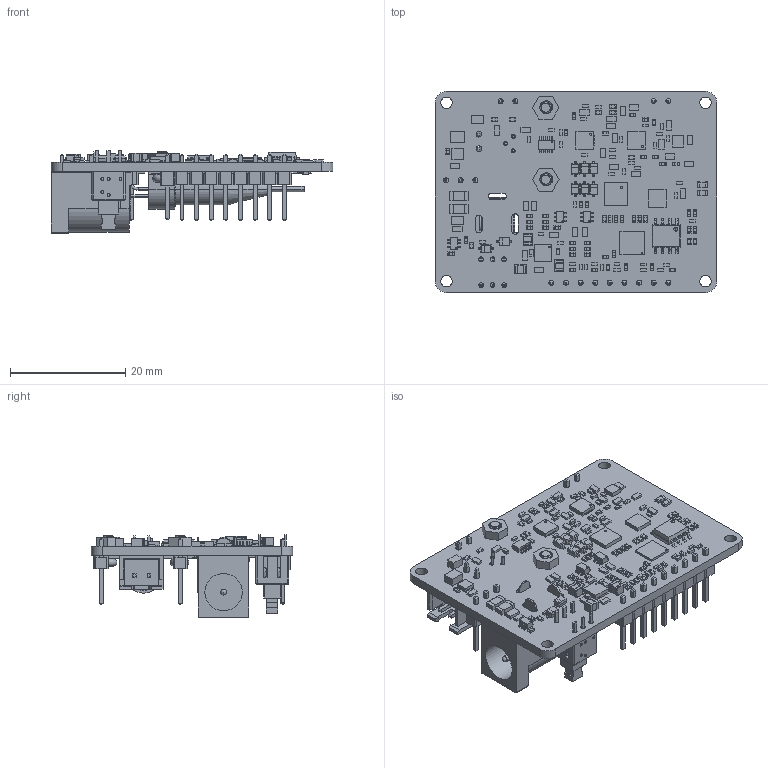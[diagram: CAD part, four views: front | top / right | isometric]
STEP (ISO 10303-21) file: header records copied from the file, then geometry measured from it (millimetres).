
FILE_DESCRIPTION(('Open CASCADE Model'),'2;1');
FILE_NAME('Open CASCADE Shape Model','2025-09-26T16:12:57',('Author'),( 'Open CASCADE'),'Open CASCADE STEP processor 6.8','Open CASCADE 6.8' ,'Unknown');
FILE_SCHEMA(('AUTOMOTIVE_DESIGN { 1 0 10303 214 1 1 1 1 }'));
Length unit declared in the file: millimetre
Products named in the file (343): PCB; Board; Open CASCADE STEP translator 6.8 4.1.1; U102; User_Library-10m1_QFN50P300X300X100-10_270X175_IPC-7351B; SW101; XKB5858-Z; P103; 2.54mm_Header_1pin; U105; User_Library-SC88-6; U104; R224; 6235440688; Extruded; 6235440288; R223; 6235926464; 6235926864; R222; R221; R220; R219; 6235928064; 6235927664; R137; R136; R135; 6235448688; 6235448128; R134; R133; R132; R131; R130; R129; R128; R127; R126; R125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
Assembly tree (783 placements, depth 5):
  PCB
    Board
      Open CASCADE STEP translator 6.8 4.1.1
    U102
      User_Library-10m1_QFN50P300X300X100-10_270X175_IPC-7351B
    SW101
      XKB5858-Z
    P103
      2.54mm_Header_1pin
    U105
      User_Library-SC88-6
    U104
      User_Library-SC88-6
    R224
      6235440688  x2
        Extruded
      6235440288
        Extruded
    R223
      6235926464
        Extruded
      6235926864  x2
        Extruded
    R222
      6235440688  x2
        Extruded
      6235440288
        Extruded
    R221
      6235926464
        Extruded
      6235926864  x2
        Extruded
    R220
      6235440688  x2
        Extruded
      6235440288
        Extruded
    R219
      6235928064
        Extruded
      6235927664  x2
        Extruded
    R137
      6235440688  x2
        Extruded
      6235440288
        Extruded
    R136
      6235440688  x2
        Extruded
      6235440288
        Extruded
    R135
      6235448688  x2
        Extruded
      6235448128
        Extruded
    R134
      6235928064
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Bounding box: 49 x 35 x 14.33 mm (x, y, z)
Volume: 4932.1 mm3; surface area: 9056.2 mm2
Topology: 652 solids, 654 shells, 6141 faces, 13903 edges, 8916 vertices
Faces by surface type: plane 5351, cylinder 573, sphere 141, bspline 60, torus 14, cone 2
Full cylindrical faces by diameter (mm): 0.105 x1, 0.201 x1, 0.388 x2, 0.4 x1, 0.7 x3, 0.8 x6, 0.85 x16, 1 x3, 1.5 x1, 2 x6, 6.5 x1
Entity records: 84113 total; most frequent: CARTESIAN_POINT 14236, DIRECTION 11918, ORIENTED_EDGE 10774, EDGE_CURVE 5388, LINE 4702, VECTOR 4702, AXIS2_PLACEMENT_3D 3608, VERTEX_POINT 3552
